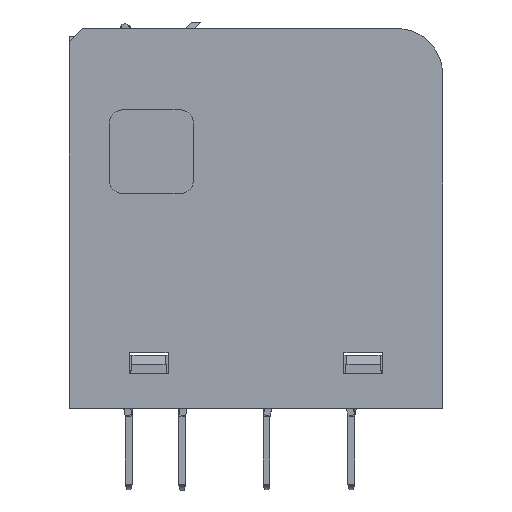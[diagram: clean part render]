
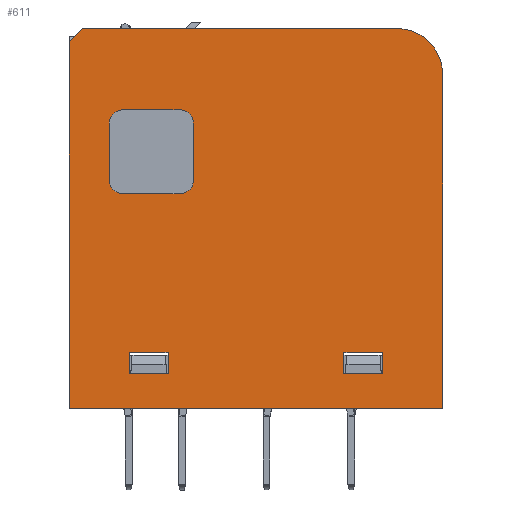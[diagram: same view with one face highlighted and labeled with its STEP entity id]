
A CAD part, top view. The second image highlights one B-rep face of the part: STEP entity #611.
In plain terms, the highlighted planar face has unit normal (0, 0, 1).
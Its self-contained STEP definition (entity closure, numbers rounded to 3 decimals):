
#611=ADVANCED_FACE('',(#7007,#7009,#7011,#7013),#7015,.T.);
#7007=FACE_BOUND('',#7008,.T.);
#7008=EDGE_LOOP('',(#12264,#12265,#12266,#12267,#12268,#12269));
#7009=FACE_BOUND('',#7010,.T.);
#7010=EDGE_LOOP('',(#12270,#12271,#12272,#12273,#12274,#12275,#12276,#12277));
#7011=FACE_BOUND('',#7012,.T.);
#7012=EDGE_LOOP('',(#12278,#12279,#12280,#12281));
#7013=FACE_BOUND('',#7014,.T.);
#7014=EDGE_LOOP('',(#12282,#12283,#12284,#12285));
#7015=PLANE('',#7016);
#7016=AXIS2_PLACEMENT_3D('',#7017,#7018,#7019);
#7017=CARTESIAN_POINT('',(0.,14.4,11.25));
#7018=DIRECTION('',(0.,0.,1.));
#7019=DIRECTION('',(0.,-1.,0.));
#12264=ORIENTED_EDGE('',*,*,#15939,.F.);
#12265=ORIENTED_EDGE('',*,*,#15940,.T.);
#12266=ORIENTED_EDGE('',*,*,#15941,.T.);
#12267=ORIENTED_EDGE('',*,*,#15942,.T.);
#12268=ORIENTED_EDGE('',*,*,#15943,.T.);
#12269=ORIENTED_EDGE('',*,*,#15944,.T.);
#12270=ORIENTED_EDGE('',*,*,#15945,.T.);
#12271=ORIENTED_EDGE('',*,*,#15946,.T.);
#12272=ORIENTED_EDGE('',*,*,#15947,.T.);
#12273=ORIENTED_EDGE('',*,*,#15948,.T.);
#12274=ORIENTED_EDGE('',*,*,#15949,.T.);
#12275=ORIENTED_EDGE('',*,*,#15950,.T.);
#12276=ORIENTED_EDGE('',*,*,#15951,.T.);
#12277=ORIENTED_EDGE('',*,*,#15952,.T.);
#12278=ORIENTED_EDGE('',*,*,#15953,.T.);
#12279=ORIENTED_EDGE('',*,*,#15709,.T.);
#12280=ORIENTED_EDGE('',*,*,#15681,.T.);
#12281=ORIENTED_EDGE('',*,*,#15778,.T.);
#12282=ORIENTED_EDGE('',*,*,#15954,.T.);
#12283=ORIENTED_EDGE('',*,*,#15723,.T.);
#12284=ORIENTED_EDGE('',*,*,#15673,.T.);
#12285=ORIENTED_EDGE('',*,*,#15718,.T.);
#15673=EDGE_CURVE('',#17624,#17622,#17625,.F.);
#15681=EDGE_CURVE('',#17640,#17638,#17641,.F.);
#15709=EDGE_CURVE('',#17690,#17640,#17691,.F.);
#15718=EDGE_CURVE('',#17622,#17704,#17706,.F.);
#15723=EDGE_CURVE('',#17714,#17624,#17715,.F.);
#15778=EDGE_CURVE('',#17638,#17811,#17813,.F.);
#15939=EDGE_CURVE('',#18074,#18075,#18076,.F.);
#15940=EDGE_CURVE('',#18074,#18077,#18078,.T.);
#15941=EDGE_CURVE('',#18077,#18079,#18080,.T.);
#15942=EDGE_CURVE('',#18079,#18081,#18082,.T.);
#15943=EDGE_CURVE('',#18081,#18083,#18084,.T.);
#15944=EDGE_CURVE('',#18083,#18075,#18085,.T.);
#15945=EDGE_CURVE('',#18086,#18087,#18088,.F.);
#15946=EDGE_CURVE('',#18087,#18089,#18090,.F.);
#15947=EDGE_CURVE('',#18089,#18091,#18092,.F.);
#15948=EDGE_CURVE('',#18091,#18093,#18094,.F.);
#15949=EDGE_CURVE('',#18093,#18095,#18096,.F.);
#15950=EDGE_CURVE('',#18095,#18097,#18098,.F.);
#15951=EDGE_CURVE('',#18097,#18099,#18100,.F.);
#15952=EDGE_CURVE('',#18099,#18086,#18101,.F.);
#15953=EDGE_CURVE('',#17811,#17690,#18102,.F.);
#15954=EDGE_CURVE('',#17704,#17714,#18103,.F.);
#17622=VERTEX_POINT('',#20821);
#17624=VERTEX_POINT('',#20825);
#17625=LINE('',#20826,#20827);
#17638=VERTEX_POINT('',#20853);
#17640=VERTEX_POINT('',#20857);
#17641=LINE('',#20858,#20859);
#17690=VERTEX_POINT('',#20963);
#17691=LINE('',#20964,#20965);
#17704=VERTEX_POINT('',#20993);
#17706=LINE('',#20997,#20998);
#17714=VERTEX_POINT('',#21015);
#17715=LINE('',#21016,#21017);
#17811=VERTEX_POINT('',#21222);
#17813=LINE('',#21226,#21227);
#18074=VERTEX_POINT('',#21838);
#18075=VERTEX_POINT('',#21839);
#18076=LINE('',#21840,#21841);
#18077=VERTEX_POINT('',#21843);
#18078=LINE('',#21844,#21845);
#18079=VERTEX_POINT('',#21847);
#18080=LINE('',#21848,#21849);
#18081=VERTEX_POINT('',#21851);
#18082=LINE('',#21852,#21853);
#18083=VERTEX_POINT('',#21855);
#18084=CIRCLE('',#21856,3.4);
#18085=LINE('',#21860,#21861);
#18086=VERTEX_POINT('',#21863);
#18087=VERTEX_POINT('',#21864);
#18088=CIRCLE('',#21865,1.);
#18089=VERTEX_POINT('',#21869);
#18090=LINE('',#21870,#21871);
#18091=VERTEX_POINT('',#21873);
#18092=CIRCLE('',#21874,1.);
#18093=VERTEX_POINT('',#21878);
#18094=LINE('',#21879,#21880);
#18095=VERTEX_POINT('',#21882);
#18096=CIRCLE('',#21883,1.);
#18097=VERTEX_POINT('',#21887);
#18098=LINE('',#21888,#21889);
#18099=VERTEX_POINT('',#21891);
#18100=CIRCLE('',#21892,1.);
#18101=LINE('',#21896,#21897);
#18102=LINE('',#21899,#21900);
#18103=LINE('',#21902,#21903);
#20821=CARTESIAN_POINT('',(6.6,2.6,11.25));
#20825=CARTESIAN_POINT('',(9.5,2.6,11.25));
#20826=CARTESIAN_POINT('',(6.6,2.6,11.25));
#20827=VECTOR('',#20828,1.);
#20828=DIRECTION('',(1.,0.,0.));
#20853=CARTESIAN_POINT('',(-9.5,2.6,11.25));
#20857=CARTESIAN_POINT('',(-6.6,2.6,11.25));
#20858=CARTESIAN_POINT('',(-9.5,2.6,11.25));
#20859=VECTOR('',#20860,1.);
#20860=DIRECTION('',(1.,0.,0.));
#20963=CARTESIAN_POINT('',(-6.6,4.2,11.25));
#20964=CARTESIAN_POINT('',(-6.6,2.6,11.25));
#20965=VECTOR('',#20966,1.);
#20966=DIRECTION('',(0.,1.,0.));
#20993=CARTESIAN_POINT('',(6.6,4.2,11.25));
#20997=CARTESIAN_POINT('',(6.6,4.2,11.25));
#20998=VECTOR('',#20999,1.);
#20999=DIRECTION('',(0.,-1.,0.));
#21015=CARTESIAN_POINT('',(9.5,4.2,11.25));
#21016=CARTESIAN_POINT('',(9.5,2.6,11.25));
#21017=VECTOR('',#21018,1.);
#21018=DIRECTION('',(0.,1.,0.));
#21222=CARTESIAN_POINT('',(-9.5,4.2,11.25));
#21226=CARTESIAN_POINT('',(-9.5,4.2,11.25));
#21227=VECTOR('',#21228,1.);
#21228=DIRECTION('',(0.,-1.,0.));
#21838=CARTESIAN_POINT('',(-14.,27.5,11.25));
#21839=CARTESIAN_POINT('',(-13.,28.5,11.25));
#21840=CARTESIAN_POINT('',(-13.,28.5,11.25));
#21841=VECTOR('',#21842,1.);
#21842=DIRECTION('',(-0.707,-0.707,0.));
#21843=CARTESIAN_POINT('',(-14.,0.,11.25));
#21844=CARTESIAN_POINT('',(-14.,27.5,11.25));
#21845=VECTOR('',#21846,1.);
#21846=DIRECTION('',(0.,-1.,0.));
#21847=CARTESIAN_POINT('',(14.,0.,11.25));
#21848=CARTESIAN_POINT('',(-14.,0.,11.25));
#21849=VECTOR('',#21850,1.);
#21850=DIRECTION('',(1.,0.,0.));
#21851=CARTESIAN_POINT('',(14.,25.1,11.25));
#21852=CARTESIAN_POINT('',(14.,0.,11.25));
#21853=VECTOR('',#21854,1.);
#21854=DIRECTION('',(0.,1.,0.));
#21855=CARTESIAN_POINT('',(10.6,28.5,11.25));
#21856=AXIS2_PLACEMENT_3D('',#21857,#21858,#21859);
#21857=CARTESIAN_POINT('',(10.6,25.1,11.25));
#21858=DIRECTION('',(0.,0.,1.));
#21859=DIRECTION('',(1.,0.,0.));
#21860=CARTESIAN_POINT('',(10.6,28.5,11.25));
#21861=VECTOR('',#21862,1.);
#21862=DIRECTION('',(-1.,0.,0.));
#21863=CARTESIAN_POINT('',(-11.,21.4,11.25));
#21864=CARTESIAN_POINT('',(-10.,22.4,11.25));
#21865=AXIS2_PLACEMENT_3D('',#21866,#21867,#21868);
#21866=CARTESIAN_POINT('',(-10.,21.4,11.25));
#21867=DIRECTION('',(0.,0.,1.));
#21868=DIRECTION('',(0.,1.,0.));
#21869=CARTESIAN_POINT('',(-5.7,22.4,11.25));
#21870=CARTESIAN_POINT('',(-5.7,22.4,11.25));
#21871=VECTOR('',#21872,1.);
#21872=DIRECTION('',(-1.,0.,0.));
#21873=CARTESIAN_POINT('',(-4.7,21.4,11.25));
#21874=AXIS2_PLACEMENT_3D('',#21875,#21876,#21877);
#21875=CARTESIAN_POINT('',(-5.7,21.4,11.25));
#21876=DIRECTION('',(0.,0.,1.));
#21877=DIRECTION('',(1.,0.,0.));
#21878=CARTESIAN_POINT('',(-4.7,17.1,11.25));
#21879=CARTESIAN_POINT('',(-4.7,17.1,11.25));
#21880=VECTOR('',#21881,1.);
#21881=DIRECTION('',(0.,1.,0.));
#21882=CARTESIAN_POINT('',(-5.7,16.1,11.25));
#21883=AXIS2_PLACEMENT_3D('',#21884,#21885,#21886);
#21884=CARTESIAN_POINT('',(-5.7,17.1,11.25));
#21885=DIRECTION('',(0.,0.,1.));
#21886=DIRECTION('',(0.,-1.,0.));
#21887=CARTESIAN_POINT('',(-10.,16.1,11.25));
#21888=CARTESIAN_POINT('',(-10.,16.1,11.25));
#21889=VECTOR('',#21890,1.);
#21890=DIRECTION('',(1.,0.,0.));
#21891=CARTESIAN_POINT('',(-11.,17.1,11.25));
#21892=AXIS2_PLACEMENT_3D('',#21893,#21894,#21895);
#21893=CARTESIAN_POINT('',(-10.,17.1,11.25));
#21894=DIRECTION('',(0.,0.,1.));
#21895=DIRECTION('',(-1.,0.,0.));
#21896=CARTESIAN_POINT('',(-11.,21.4,11.25));
#21897=VECTOR('',#21898,1.);
#21898=DIRECTION('',(0.,-1.,0.));
#21899=CARTESIAN_POINT('',(-6.6,4.2,11.25));
#21900=VECTOR('',#21901,1.);
#21901=DIRECTION('',(-1.,0.,0.));
#21902=CARTESIAN_POINT('',(9.5,4.2,11.25));
#21903=VECTOR('',#21904,1.);
#21904=DIRECTION('',(-1.,0.,0.));
